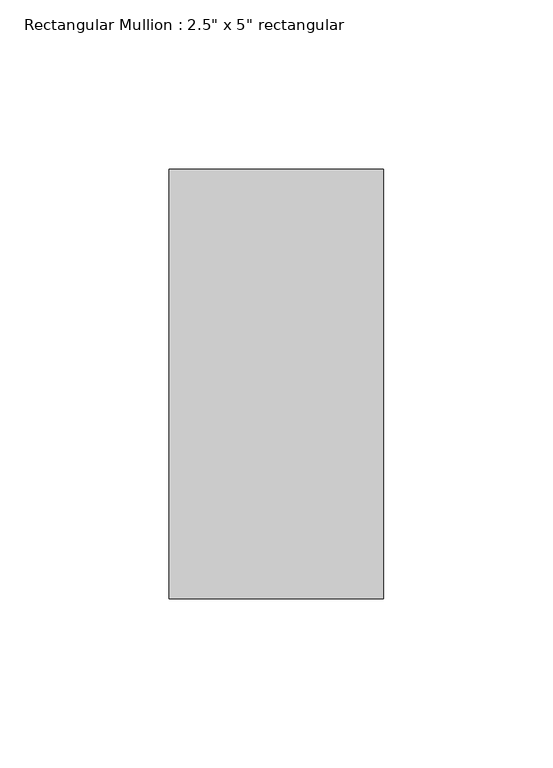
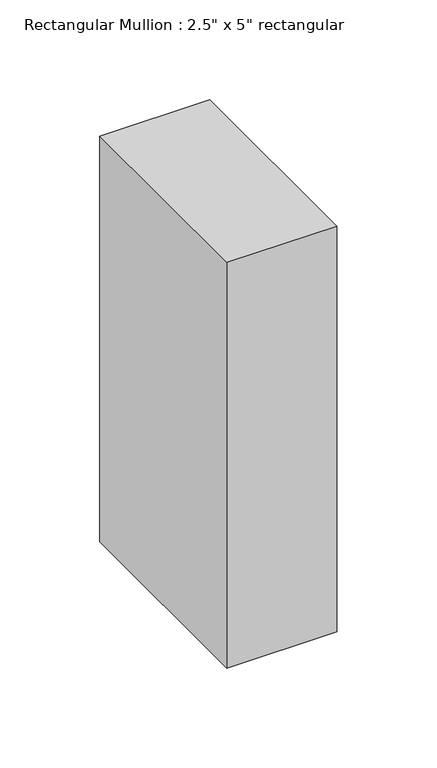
"""IFC4 building model written with IfcOpenShell, lengths in millimetres: member geometry."""

import ifcopenshell
import ifcopenshell.guid

model = None  # the IFC model being written
_history = None  # IfcOwnerHistory: only IFC2X3 demands one
_inside = {}  # id of a spatial element -> (the spatial element, [elements in it])
_under = {}  # id of a project, library or spatial element -> (it, [spatial elements below it])
_declared = {}  # id of a project -> (the project, [libraries it declares])
_typed = {}  # id of a type object -> (the type object, [elements of that type])
_made_of = {}  # id of a material, layer set ... -> (it, [elements and type objects made of it])


def new_model(schema):
    """Start an empty IFC model of exactly this schema.

    Asked for "IFC4X3", IfcOpenShell would pick the latest addendum, in which some entities
    have other attributes; the version numbers below select the first issue.
    IFC2X3 requires an IfcOwnerHistory on every rooted entity: one is made here for all.
    """
    global model, _history
    if schema == "IFC4X3":
        model = ifcopenshell.file(schema_version=(4, 3, 0, 0))
    else:
        model = ifcopenshell.file(schema=schema)
    _inside.clear()
    _under.clear()
    _declared.clear()
    _typed.clear()
    _made_of.clear()
    _history = None
    if model.schema == "IFC2X3":
        org = make("IfcOrganization", Name="unknown")
        user = make(
            "IfcPersonAndOrganization",
            ThePerson=make("IfcPerson", FamilyName="unknown"),
            TheOrganization=org,
        )
        app = make(
            "IfcApplication",
            ApplicationDeveloper=org,
            Version="unknown",
            ApplicationFullName="unknown",
            ApplicationIdentifier="unknown",
        )
        _history = make(
            "IfcOwnerHistory",
            OwningUser=user,
            OwningApplication=app,
            ChangeAction="ADDED",
            CreationDate=0,
        )
    return model


def make(cls, **values):
    """One entity of the class cls with the attributes given. An attribute that is None is left unset."""
    return model.create_entity(
        cls, **{name: value for name, value in values.items() if value is not None}
    )


def rooted(cls, **values):
    """An entity with a GlobalId (a new one), such as an element, a storey or a relation."""
    return make(cls, GlobalId=ifcopenshell.guid.new(), OwnerHistory=_history, **values)


def si_unit(unit_type, name, prefix=None):
    """IfcSIUnit, for example si_unit("LENGTHUNIT", "METRE", prefix="MILLI")."""
    return make("IfcSIUnit", UnitType=unit_type, Prefix=prefix, Name=name)


def assignment(units):
    """IfcUnitAssignment: the units of a project."""
    return None if units is None else make("IfcUnitAssignment", Units=units)


def point(xyz):
    """IfcCartesianPoint."""
    return None if xyz is None else make("IfcCartesianPoint", Coordinates=xyz)


def direction(xyz):
    """IfcDirection."""
    return None if xyz is None else make("IfcDirection", DirectionRatios=xyz)


def frame(location, z_axis=None, x_axis=None):
    """IfcAxis2Placement3D, a coordinate frame: its origin and axes. An axis left out is left unset."""
    return make(
        "IfcAxis2Placement3D",
        Location=point(location),
        Axis=direction(z_axis),
        RefDirection=direction(x_axis),
    )


def origin():
    """The frame at (0, 0, 0) with its axes left unset."""
    return frame((0.0, 0.0, 0.0))


def place(relative_to, where):
    """IfcLocalPlacement: puts the frame where relative to a parent placement (None: the world)."""
    return make(
        "IfcLocalPlacement", PlacementRelTo=relative_to, RelativePlacement=where
    )


def context(
    kind, dimensions, precision=None, world=None, true_north=None, identifier=None
):
    """IfcGeometricRepresentationContext, for example the 3D "Model" context."""
    return make(
        "IfcGeometricRepresentationContext",
        ContextIdentifier=identifier,
        ContextType=kind,
        CoordinateSpaceDimension=dimensions,
        Precision=precision,
        WorldCoordinateSystem=world,
        TrueNorth=true_north,
    )


def project(units=None, contexts=None):
    """IfcProject with its units and contexts."""
    return rooted(
        "IfcProject",
        Name="project",
        RepresentationContexts=contexts,
        UnitsInContext=assignment(units),
    )


def spatial(cls, under=None, at=None, **own):
    """A site, building, storey or space (cls), placed at a placement, below another one or the project."""
    s = rooted(cls, ObjectPlacement=at, **own)
    if under is not None:
        _under.setdefault(under.id(), (under, []))[1].append(s)
    return s


def polyline(points):
    """IfcPolyline through the points."""
    return make("IfcPolyline", Points=[point(p) for p in points])


def outline(outer, holes=None, kind="AREA"):
    """IfcArbitraryClosedProfileDef: a profile drawn as a closed curve; with holes, ...WithVoids."""
    if holes is None:
        return make("IfcArbitraryClosedProfileDef", ProfileType=kind, OuterCurve=outer)
    return make(
        "IfcArbitraryProfileDefWithVoids",
        ProfileType=kind,
        OuterCurve=outer,
        InnerCurves=holes,
    )


def extrude(swept, where, along, depth):
    """IfcExtrudedAreaSolid: the profile swept, set in the frame where, extruded along a direction by depth."""
    return make(
        "IfcExtrudedAreaSolid",
        SweptArea=swept,
        Position=where,
        ExtrudedDirection=direction(along),
        Depth=depth,
    )


def shape(context_of_items, identifier, shape_type, items):
    """IfcShapeRepresentation: the items that make up one representation, for example the "Body"."""
    return make(
        "IfcShapeRepresentation",
        ContextOfItems=context_of_items,
        RepresentationIdentifier=identifier,
        RepresentationType=shape_type,
        Items=items,
    )


def source(mapping_origin, context_of_items, identifier, shape_type, items):
    """IfcRepresentationMap: a shape defined once, which mapped items show again and again."""
    return make(
        "IfcRepresentationMap",
        MappingOrigin=mapping_origin,
        MappedRepresentation=shape(context_of_items, identifier, shape_type, items),
    )


def transform(
    local_origin,
    x_axis=None,
    y_axis=None,
    z_axis=None,
    scale=None,
    scale2=None,
    scale3=None,
    uniform=True,
):
    """IfcCartesianTransformationOperator3D, or its non-uniform kind. x_axis, y_axis, z_axis: its Axis1, 2, 3."""
    if uniform:
        return make(
            "IfcCartesianTransformationOperator3D",
            Axis1=direction(x_axis),
            Axis2=direction(y_axis),
            LocalOrigin=point(local_origin),
            Scale=scale,
            Axis3=direction(z_axis),
        )
    return make(
        "IfcCartesianTransformationOperator3DnonUniform",
        Axis1=direction(x_axis),
        Axis2=direction(y_axis),
        LocalOrigin=point(local_origin),
        Scale=scale,
        Axis3=direction(z_axis),
        Scale2=scale2,
        Scale3=scale3,
    )


def mapped(mapping_source, mapping_target):
    """IfcMappedItem: shows the shape of a source again, moved by a transform."""
    return make(
        "IfcMappedItem", MappingSource=mapping_source, MappingTarget=mapping_target
    )


def made_of(thing, what):
    """Note that an element or type object is made of a material, layer set ...; save() writes the relation."""
    if what is not None:
        _made_of.setdefault(what.id(), (what, []))[1].append(thing)
    return thing


def element(
    cls,
    number,
    at=None,
    inside=None,
    cuts=None,
    type_object=None,
    material=None,
    context=None,
    identifier="Body",
    shape_type=None,
    held_by="IfcProductDefinitionShape",
    body=None,
    shapes=None,
    **own,
):
    """One element of the class cls, such as IfcWall. Its Tag is "e" and its number.

    at: its placement. inside: the storey or other place that contains it. cuts: it is an
    opening in that element (IfcRelVoidsElement). A single representation is given by context,
    identifier, shape_type and body (its items); several are given by shapes. held_by: the class
    of the entity that holds the representations. save() writes the other relations.
    """
    e = rooted(cls, Tag="e%d" % number, ObjectPlacement=at, **own)
    if body is not None:
        shapes = [shape(context, identifier, shape_type, body)]
    if shapes is not None:
        e.Representation = make(held_by, Representations=shapes)
    if inside is not None:
        _inside.setdefault(inside.id(), (inside, []))[1].append(e)
    if cuts is not None:
        rooted(
            "IfcRelVoidsElement", RelatingBuildingElement=cuts, RelatedOpeningElement=e
        )
    if type_object is not None:
        _typed.setdefault(type_object.id(), (type_object, []))[1].append(e)
    return made_of(e, material)


def aggregate(whole, parts):
    """IfcRelAggregates: a whole, such as a stair, and the parts it consists of."""
    return rooted("IfcRelAggregates", RelatingObject=whole, RelatedObjects=parts)


def save(model, path):
    """Write the relations noted so far, then the file.

    IfcRelAggregates (storeys below a building ...), IfcRelContainedInSpatialStructure (elements
    in a storey), IfcRelDefinesByType, IfcRelAssociatesMaterial and IfcRelDeclares: one each for
    every whole, place, type object, material and project.
    """
    for whole, parts in _under.values():
        aggregate(whole, parts)
    for where, things in _inside.values():
        rooted(
            "IfcRelContainedInSpatialStructure",
            RelatedElements=things,
            RelatingStructure=where,
        )
    for kind, things in _typed.values():
        rooted("IfcRelDefinesByType", RelatedObjects=things, RelatingType=kind)
    for what, things in _made_of.values():
        rooted("IfcRelAssociatesMaterial", RelatedObjects=things, RelatingMaterial=what)
    for by, libraries in _declared.values():
        rooted("IfcRelDeclares", RelatingContext=by, RelatedDefinitions=libraries)
    model.write(path)


def member_4d06fd9b(model_context):
    return source(origin(), model_context, "Body", "SweptSolid", [
        extrude(outline(polyline([(0.0, 63.5), (0.0, -63.5), (-63.5, -63.5), (-63.5, 63.5), (0.0, 63.5)])), frame((0.0, 0.0, -247.65), z_axis=(0.0, 0.0, 1.0), x_axis=(1.0, 0.0, 0.0)), (0.0, 0.0, 1.0), 247.65),
    ])


if __name__ == "__main__":
    model = new_model("IFC4")
    model_context = context("Model", 3, world=origin())
    ifc_project = project(units=[si_unit("LENGTHUNIT", "METRE", prefix="MILLI")], contexts=[model_context])
    site = spatial("IfcSite", under=ifc_project)
    building = spatial("IfcBuilding", under=site)
    placement = place(None, origin())
    member_shape = member_4d06fd9b(model_context)
    element("IfcMember", 1, ObjectType="Rectangular Mullion : 2.5\" x 5\" rectangular", at=placement, inside=building, context=model_context, shape_type="MappedRepresentation", body=[
        mapped(member_shape, transform((0.0, 0.0, 0.0), x_axis=(1.0, 0.0, 0.0), y_axis=(0.0, 1.0, 0.0), z_axis=(0.0, 0.0, 1.0))),
    ])
    save(model, "model.ifc")
